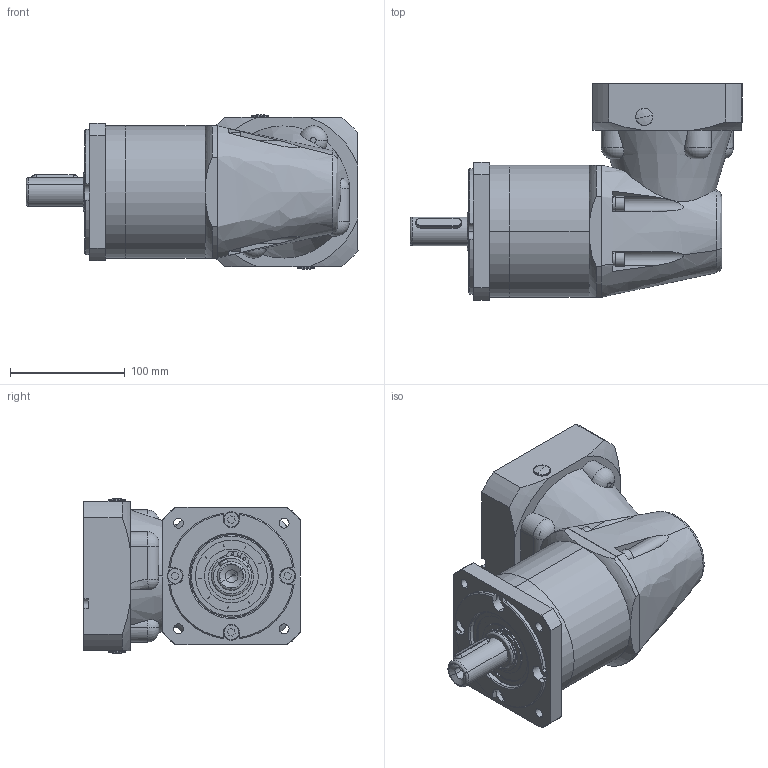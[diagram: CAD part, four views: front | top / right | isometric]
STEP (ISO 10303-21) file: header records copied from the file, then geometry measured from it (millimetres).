
FILE_DESCRIPTION (( 'STEP AP203' ), '1' );
FILE_NAME ('WPF115L2-i-P2-S2-22-58-110-145-M8.step', '2020-03-30T09:02:08', ( '个人用户' ), ( '微软中国' ), 'SwSTEP 2.0', 'SolidWorks 2018', '' );
FILE_SCHEMA (( 'CONFIG_CONTROL_DESIGN' ));
Length unit declared in the file: millimetre
Products named in the file (1): WPF115L2-i-P2-S2-22-58-110-145-M8
Bounding box: 289 x 188.5 x 134.6 mm (x, y, z)
Volume: 1839211 mm3; surface area: 415022.4 mm2
Topology: 41 solids, 41 shells, 1245 faces, 2954 edges, 1869 vertices
Faces by surface type: cylinder 451, plane 406, torus 154, cone 146, sphere 78, bspline 10
Entity records: 42202 total; most frequent: CARTESIAN_POINT 12799, DIRECTION 6497, ORIENTED_EDGE 5840, EDGE_CURVE 2920, AXIS2_PLACEMENT_3D 2665, VERTEX_POINT 1869, EDGE_LOOP 1441, CIRCLE 1429
